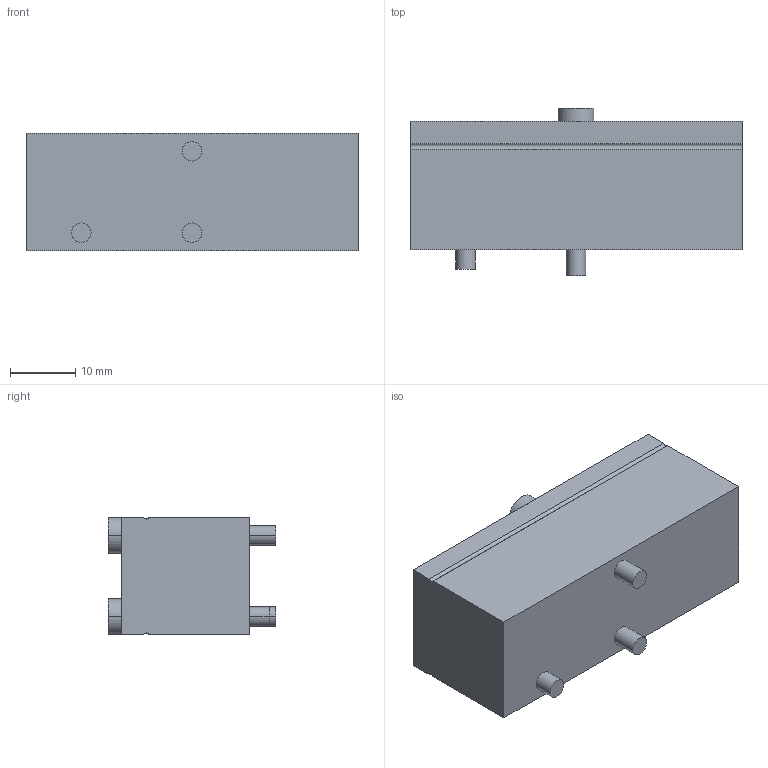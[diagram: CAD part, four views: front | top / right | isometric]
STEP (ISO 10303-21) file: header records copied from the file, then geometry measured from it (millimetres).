
FILE_DESCRIPTION((''),'2;1');
FILE_NAME('1827009938','2015-04-17T',('mla1hc'),(''),'PRO/ENGINEER BY PARAMETRIC TECHNOLOGY CORPORATION, 2011490','PRO/ENGINEER BY PARAMETRIC TECHNOLOGY CORPORATION, 2011490','');
FILE_SCHEMA(('AUTOMOTIVE_DESIGN_CC2 { 1 2 10303 214 -1 1 5 2 }'));
Length unit declared in the file: millimetre
Products named in the file (1): 1827009938
Bounding box: 51 x 25.7 x 18 mm (x, y, z)
Volume: 17724.7 mm3; surface area: 4980.2 mm2
Topology: 1 solids, 1 shells, 28 faces, 64 edges, 42 vertices
Faces by surface type: plane 14, cylinder 14
Entity records: 811 total; most frequent: DIRECTION 150, CARTESIAN_POINT 134, ORIENTED_EDGE 128, EDGE_CURVE 64, AXIS2_PLACEMENT_3D 58, VERTEX_POINT 42, VECTOR 34, LINE 34
